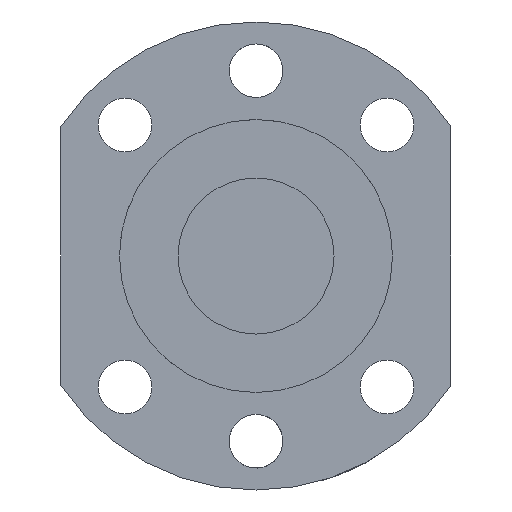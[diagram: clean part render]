
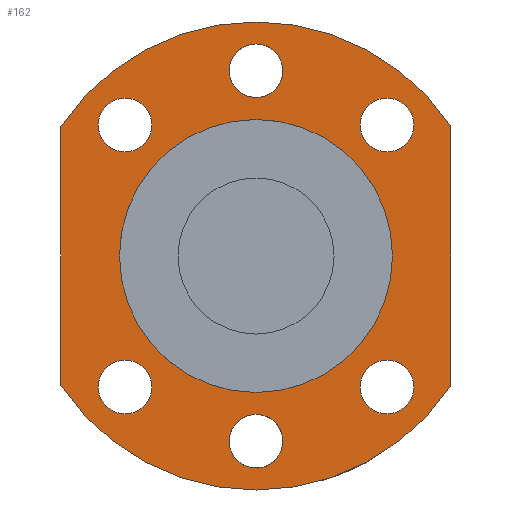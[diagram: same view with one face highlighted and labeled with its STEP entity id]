
A CAD part, front view. The second image highlights one B-rep face of the part: STEP entity #162.
In plain terms, the highlighted planar face has unit normal (0, -1, 0).
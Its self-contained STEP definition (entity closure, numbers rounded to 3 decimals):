
#104=LINE('',#842,#114);
#108=LINE('',#913,#118);
#114=VECTOR('',#657,1.);
#118=VECTOR('',#669,1.);
#139=PLANE('',#592);
#162=ADVANCED_FACE('',(#218,#219,#220,#221,#222,#223,#224,#225),#139,.F.);
#218=FACE_BOUND('',#287,.T.);
#219=FACE_BOUND('',#288,.T.);
#220=FACE_BOUND('',#289,.T.);
#221=FACE_BOUND('',#290,.T.);
#222=FACE_BOUND('',#291,.T.);
#223=FACE_BOUND('',#292,.T.);
#224=FACE_BOUND('',#293,.T.);
#225=FACE_BOUND('',#294,.T.);
#287=EDGE_LOOP('',(#373));
#288=EDGE_LOOP('',(#374));
#289=EDGE_LOOP('',(#375));
#290=EDGE_LOOP('',(#376));
#291=EDGE_LOOP('',(#377));
#292=EDGE_LOOP('',(#378));
#293=EDGE_LOOP('',(#379));
#294=EDGE_LOOP('',(#380,#381,#382,#383));
#373=ORIENTED_EDGE('',*,*,#501,.F.);
#374=ORIENTED_EDGE('',*,*,#502,.F.);
#375=ORIENTED_EDGE('',*,*,#503,.F.);
#376=ORIENTED_EDGE('',*,*,#504,.T.);
#377=ORIENTED_EDGE('',*,*,#505,.T.);
#378=ORIENTED_EDGE('',*,*,#506,.T.);
#379=ORIENTED_EDGE('',*,*,#507,.T.);
#380=ORIENTED_EDGE('',*,*,#481,.F.);
#381=ORIENTED_EDGE('',*,*,#492,.F.);
#382=ORIENTED_EDGE('',*,*,#489,.F.);
#383=ORIENTED_EDGE('',*,*,#485,.F.);
#439=VERTEX_POINT('',#834);
#440=VERTEX_POINT('',#835);
#443=VERTEX_POINT('',#843);
#446=VERTEX_POINT('',#908);
#455=VERTEX_POINT('',#932);
#456=VERTEX_POINT('',#934);
#457=VERTEX_POINT('',#936);
#458=VERTEX_POINT('',#938);
#459=VERTEX_POINT('',#940);
#460=VERTEX_POINT('',#942);
#461=VERTEX_POINT('',#944);
#481=EDGE_CURVE('',#439,#440,#528,.T.);
#485=EDGE_CURVE('',#440,#443,#104,.T.);
#489=EDGE_CURVE('',#443,#446,#530,.T.);
#492=EDGE_CURVE('',#446,#439,#108,.T.);
#501=EDGE_CURVE('',#455,#455,#539,.T.);
#502=EDGE_CURVE('',#456,#456,#540,.T.);
#503=EDGE_CURVE('',#457,#457,#541,.T.);
#504=EDGE_CURVE('',#458,#458,#542,.T.);
#505=EDGE_CURVE('',#459,#459,#543,.T.);
#506=EDGE_CURVE('',#460,#460,#544,.T.);
#507=EDGE_CURVE('',#461,#461,#545,.T.);
#528=CIRCLE('',#569,24.);
#530=CIRCLE('',#573,24.);
#539=CIRCLE('',#585,2.75);
#540=CIRCLE('',#586,2.75);
#541=CIRCLE('',#587,2.75);
#542=CIRCLE('',#588,2.75);
#543=CIRCLE('',#589,2.75);
#544=CIRCLE('',#590,2.75);
#545=CIRCLE('',#591,14.);
#569=AXIS2_PLACEMENT_3D('',#833,#649,#650);
#573=AXIS2_PLACEMENT_3D('',#907,#662,#663);
#585=AXIS2_PLACEMENT_3D('',#931,#689,#690);
#586=AXIS2_PLACEMENT_3D('',#933,#691,#692);
#587=AXIS2_PLACEMENT_3D('',#935,#693,#694);
#588=AXIS2_PLACEMENT_3D('',#937,#695,#696);
#589=AXIS2_PLACEMENT_3D('',#939,#697,#698);
#590=AXIS2_PLACEMENT_3D('',#941,#699,#700);
#591=AXIS2_PLACEMENT_3D('',#943,#701,#702);
#592=AXIS2_PLACEMENT_3D('',#945,#703,#704);
#649=DIRECTION('',(0.,1.,0.));
#650=DIRECTION('',(1.,0.,0.));
#657=DIRECTION('',(0.,0.,-1.));
#662=DIRECTION('',(0.,1.,0.));
#663=DIRECTION('',(1.,0.,0.));
#669=DIRECTION('',(0.,0.,1.));
#689=DIRECTION('',(0.,-1.,0.));
#690=DIRECTION('',(-1.,0.,0.));
#691=DIRECTION('',(0.,-1.,0.));
#692=DIRECTION('',(-0.707,0.,-0.707));
#693=DIRECTION('',(0.,-1.,0.));
#694=DIRECTION('',(0.,0.,-1.));
#695=DIRECTION('',(0.,1.,0.));
#696=DIRECTION('',(-1.,0.,0.));
#697=DIRECTION('',(0.,1.,0.));
#698=DIRECTION('',(-0.707,0.,0.707));
#699=DIRECTION('',(0.,1.,0.));
#700=DIRECTION('',(0.,0.,1.));
#701=DIRECTION('',(0.,1.,0.));
#702=DIRECTION('',(1.,0.,0.));
#703=DIRECTION('',(0.,1.,0.));
#704=DIRECTION('',(0.,0.,-1.));
#833=CARTESIAN_POINT('',(0.,-22.5,0.));
#834=CARTESIAN_POINT('',(-20.,-22.5,13.266));
#835=CARTESIAN_POINT('',(20.,-22.5,13.266));
#842=CARTESIAN_POINT('',(20.,-22.5,13.266));
#843=CARTESIAN_POINT('',(20.,-22.5,-13.266));
#907=CARTESIAN_POINT('',(0.,-22.5,0.));
#908=CARTESIAN_POINT('',(-20.,-22.5,-13.266));
#913=CARTESIAN_POINT('',(-20.,-22.5,-13.266));
#931=CARTESIAN_POINT('',(13.435,-22.5,13.435));
#932=CARTESIAN_POINT('',(10.685,-22.5,13.435));
#933=CARTESIAN_POINT('',(0.,-22.5,19.));
#934=CARTESIAN_POINT('',(-1.945,-22.5,17.055));
#935=CARTESIAN_POINT('',(-13.435,-22.5,13.435));
#936=CARTESIAN_POINT('',(-13.435,-22.5,10.685));
#937=CARTESIAN_POINT('',(13.435,-22.5,-13.435));
#938=CARTESIAN_POINT('',(10.685,-22.5,-13.435));
#939=CARTESIAN_POINT('',(0.,-22.5,-19.));
#940=CARTESIAN_POINT('',(-1.945,-22.5,-17.055));
#941=CARTESIAN_POINT('',(-13.435,-22.5,-13.435));
#942=CARTESIAN_POINT('',(-13.435,-22.5,-10.685));
#943=CARTESIAN_POINT('',(0.,-22.5,0.));
#944=CARTESIAN_POINT('',(14.,-22.5,0.));
#945=CARTESIAN_POINT('',(0.,-22.5,0.));
